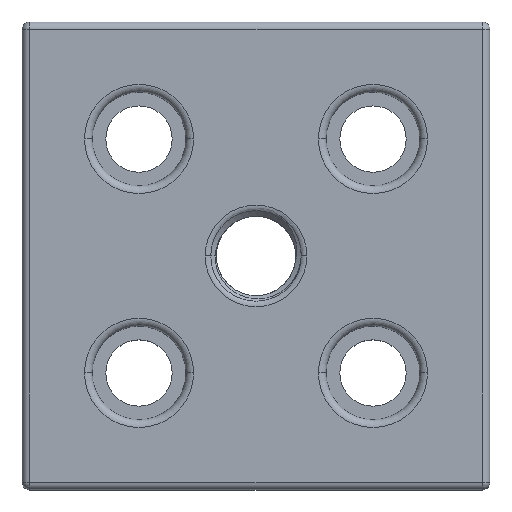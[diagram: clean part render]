
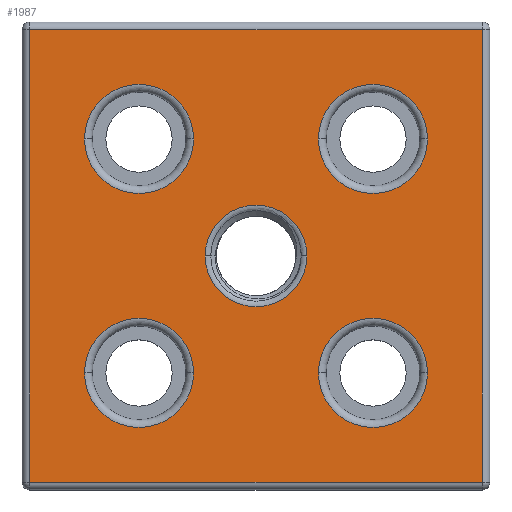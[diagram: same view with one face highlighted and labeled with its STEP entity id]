
A CAD part, top view. The second image highlights one B-rep face of the part: STEP entity #1987.
In plain terms, the highlighted planar face has unit normal (0, 0, 1).
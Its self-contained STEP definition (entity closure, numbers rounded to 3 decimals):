
#12 = DIRECTION ( 'NONE',  ( 1., 0., 0. ) ) ;
#38 = DIRECTION ( 'NONE',  ( 0., 0., -1. ) ) ;
#41 = CIRCLE ( 'NONE', #2065, 7. ) ;
#80 = DIRECTION ( 'NONE',  ( 0., 0., -1. ) ) ;
#163 = AXIS2_PLACEMENT_3D ( 'NONE', #1362, #996, #626 ) ;
#202 = DIRECTION ( 'NONE',  ( 0., 0., 1. ) ) ;
#227 = VECTOR ( 'NONE', #1037, 1000. ) ;
#243 = EDGE_CURVE ( 'NONE', #1811, #699, #41, .T. ) ;
#253 = ORIENTED_EDGE ( 'NONE', *, *, #2280, .T. ) ;
#254 = VECTOR ( 'NONE', #1158, 1000. ) ;
#351 = DIRECTION ( 'NONE',  ( 0., 0., -1. ) ) ;
#375 = DIRECTION ( 'NONE',  ( 0., 0., -1. ) ) ;
#391 = CIRCLE ( 'NONE', #2738, 7. ) ;
#400 = VERTEX_POINT ( 'NONE', #2821 ) ;
#405 = CARTESIAN_POINT ( 'NONE',  ( -15., -15., 6. ) ) ;
#447 = CARTESIAN_POINT ( 'NONE',  ( -15., 15., 6. ) ) ;
#450 = AXIS2_PLACEMENT_3D ( 'NONE', #1682, #1310, #941 ) ;
#529 = CARTESIAN_POINT ( 'NONE',  ( -22., -15., 6. ) ) ;
#565 = CARTESIAN_POINT ( 'NONE',  ( 0., 0., 6. ) ) ;
#569 = EDGE_CURVE ( 'NONE', #3458, #3168, #3077, .T. ) ;
#583 = ORIENTED_EDGE ( 'NONE', *, *, #968, .T. ) ;
#611 = DIRECTION ( 'NONE',  ( 1., 0., 0. ) ) ;
#625 = EDGE_CURVE ( 'NONE', #3211, #802, #1896, .T. ) ;
#626 = DIRECTION ( 'NONE',  ( 1., 0., 0. ) ) ;
#662 = DIRECTION ( 'NONE',  ( 0., 1., 0. ) ) ;
#670 = DIRECTION ( 'NONE',  ( 1., 0., 0. ) ) ;
#699 = VERTEX_POINT ( 'NONE', #529 ) ;
#715 = CARTESIAN_POINT ( 'NONE',  ( 15., 15., 6. ) ) ;
#740 = CARTESIAN_POINT ( 'NONE',  ( 15., -15., 6. ) ) ;
#760 = VERTEX_POINT ( 'NONE', #2742 ) ;
#788 = ORIENTED_EDGE ( 'NONE', *, *, #625, .T. ) ;
#802 = VERTEX_POINT ( 'NONE', #1601 ) ;
#840 = DIRECTION ( 'NONE',  ( -1., 0., 0. ) ) ;
#938 = PLANE ( 'NONE',  #1560 ) ;
#940 = CIRCLE ( 'NONE', #3275, 7. ) ;
#941 = DIRECTION ( 'NONE',  ( 1., 0., 0. ) ) ;
#942 = EDGE_CURVE ( 'NONE', #2573, #2532, #1401, .T. ) ;
#968 = EDGE_CURVE ( 'NONE', #3168, #3458, #1241, .T. ) ;
#984 = DIRECTION ( 'NONE',  ( 0., 0., -1. ) ) ;
#990 = EDGE_CURVE ( 'NONE', #3108, #2111, #2530, .T. ) ;
#995 = FACE_BOUND ( 'NONE', #2614, .T. ) ;
#996 = DIRECTION ( 'NONE',  ( 0., 0., -1. ) ) ;
#1003 = ORIENTED_EDGE ( 'NONE', *, *, #1704, .T. ) ;
#1030 = CARTESIAN_POINT ( 'NONE',  ( 29., 30., 6. ) ) ;
#1035 = DIRECTION ( 'NONE',  ( 0., 0., -1. ) ) ;
#1037 = DIRECTION ( 'NONE',  ( 1., 0., 0. ) ) ;
#1077 = AXIS2_PLACEMENT_3D ( 'NONE', #405, #38, #3172 ) ;
#1091 = AXIS2_PLACEMENT_3D ( 'NONE', #2663, #2321, #1960 ) ;
#1149 = ORIENTED_EDGE ( 'NONE', *, *, #569, .T. ) ;
#1158 = DIRECTION ( 'NONE',  ( 0., -1., 0. ) ) ;
#1168 = CIRCLE ( 'NONE', #163, 7. ) ;
#1213 = CARTESIAN_POINT ( 'NONE',  ( -30., 29., 6. ) ) ;
#1241 = CIRCLE ( 'NONE', #450, 7. ) ;
#1310 = DIRECTION ( 'NONE',  ( 0., 0., -1. ) ) ;
#1336 = VERTEX_POINT ( 'NONE', #2915 ) ;
#1347 = ORIENTED_EDGE ( 'NONE', *, *, #1663, .T. ) ;
#1350 = CARTESIAN_POINT ( 'NONE',  ( 0., 0., 6. ) ) ;
#1362 = CARTESIAN_POINT ( 'NONE',  ( 15., 15., 6. ) ) ;
#1373 = EDGE_CURVE ( 'NONE', #699, #1811, #1796, .T. ) ;
#1382 = AXIS2_PLACEMENT_3D ( 'NONE', #740, #375, #12 ) ;
#1401 = LINE ( 'NONE', #1030, #2202 ) ;
#1409 = CARTESIAN_POINT ( 'NONE',  ( 30., -29., 6. ) ) ;
#1439 = EDGE_LOOP ( 'NONE', ( #1149, #583 ) ) ;
#1443 = EDGE_CURVE ( 'NONE', #2111, #3108, #3071, .T. ) ;
#1466 = FACE_BOUND ( 'NONE', #1609, .T. ) ;
#1494 = CIRCLE ( 'NONE', #1382, 7. ) ;
#1531 = CARTESIAN_POINT ( 'NONE',  ( -29., -30., 6. ) ) ;
#1560 = AXIS2_PLACEMENT_3D ( 'NONE', #565, #202, #3323 ) ;
#1572 = EDGE_LOOP ( 'NONE', ( #2948, #1347, #788, #1003 ) ) ;
#1579 = EDGE_CURVE ( 'NONE', #400, #760, #1494, .T. ) ;
#1588 = LINE ( 'NONE', #1213, #2581 ) ;
#1601 = CARTESIAN_POINT ( 'NONE',  ( -29., -29., 6. ) ) ;
#1609 = EDGE_LOOP ( 'NONE', ( #253, #3431 ) ) ;
#1645 = FACE_BOUND ( 'NONE', #3044, .T. ) ;
#1653 = ORIENTED_EDGE ( 'NONE', *, *, #1373, .T. ) ;
#1663 = EDGE_CURVE ( 'NONE', #2532, #3211, #1588, .T. ) ;
#1682 = CARTESIAN_POINT ( 'NONE',  ( -15., 15., 6. ) ) ;
#1704 = EDGE_CURVE ( 'NONE', #802, #2573, #1783, .T. ) ;
#1736 = AXIS2_PLACEMENT_3D ( 'NONE', #1350, #984, #611 ) ;
#1783 = LINE ( 'NONE', #1409, #227 ) ;
#1796 = CIRCLE ( 'NONE', #1077, 7. ) ;
#1811 = VERTEX_POINT ( 'NONE', #3102 ) ;
#1838 = FACE_BOUND ( 'NONE', #1439, .T. ) ;
#1886 = EDGE_CURVE ( 'NONE', #2604, #1336, #940, .T. ) ;
#1896 = LINE ( 'NONE', #1531, #254 ) ;
#1935 = EDGE_CURVE ( 'NONE', #1336, #2604, #1168, .T. ) ;
#1960 = DIRECTION ( 'NONE',  ( 1., 0., 0. ) ) ;
#1985 = DIRECTION ( 'NONE',  ( 1., 0., 0. ) ) ;
#1987 = ADVANCED_FACE ( 'NONE', ( #995, #1466, #1645, #1838, #2019, #2115 ), #938, .T. ) ;
#2019 = FACE_OUTER_BOUND ( 'NONE', #1572, .T. ) ;
#2065 = AXIS2_PLACEMENT_3D ( 'NONE', #2681, #2340, #1985 ) ;
#2111 = VERTEX_POINT ( 'NONE', #3017 ) ;
#2115 = FACE_BOUND ( 'NONE', #2775, .T. ) ;
#2121 = CARTESIAN_POINT ( 'NONE',  ( 6.514, 0., 6. ) ) ;
#2183 = CARTESIAN_POINT ( 'NONE',  ( 29., -29., 6. ) ) ;
#2202 = VECTOR ( 'NONE', #662, 1000. ) ;
#2280 = EDGE_CURVE ( 'NONE', #760, #400, #391, .T. ) ;
#2321 = DIRECTION ( 'NONE',  ( 0., 0., -1. ) ) ;
#2340 = DIRECTION ( 'NONE',  ( 0., 0., -1. ) ) ;
#2384 = CARTESIAN_POINT ( 'NONE',  ( -29., 29., 6. ) ) ;
#2443 = CARTESIAN_POINT ( 'NONE',  ( 22., 15., 6. ) ) ;
#2481 = CARTESIAN_POINT ( 'NONE',  ( 15., -15., 6. ) ) ;
#2530 = CIRCLE ( 'NONE', #1091, 6.514 ) ;
#2532 = VERTEX_POINT ( 'NONE', #3179 ) ;
#2573 = VERTEX_POINT ( 'NONE', #2183 ) ;
#2581 = VECTOR ( 'NONE', #840, 1000. ) ;
#2604 = VERTEX_POINT ( 'NONE', #2443 ) ;
#2614 = EDGE_LOOP ( 'NONE', ( #2752, #2814 ) ) ;
#2622 = AXIS2_PLACEMENT_3D ( 'NONE', #447, #80, #3210 ) ;
#2663 = CARTESIAN_POINT ( 'NONE',  ( 0., 0., 6. ) ) ;
#2678 = CARTESIAN_POINT ( 'NONE',  ( -8., 15., 6. ) ) ;
#2681 = CARTESIAN_POINT ( 'NONE',  ( -15., -15., 6. ) ) ;
#2726 = CARTESIAN_POINT ( 'NONE',  ( -22., 15., 6. ) ) ;
#2738 = AXIS2_PLACEMENT_3D ( 'NONE', #2481, #1035, #670 ) ;
#2742 = CARTESIAN_POINT ( 'NONE',  ( 22., -15., 6. ) ) ;
#2752 = ORIENTED_EDGE ( 'NONE', *, *, #1886, .T. ) ;
#2775 = EDGE_LOOP ( 'NONE', ( #3011, #3209 ) ) ;
#2814 = ORIENTED_EDGE ( 'NONE', *, *, #1935, .T. ) ;
#2821 = CARTESIAN_POINT ( 'NONE',  ( 8., -15., 6. ) ) ;
#2915 = CARTESIAN_POINT ( 'NONE',  ( 8., 15., 6. ) ) ;
#2948 = ORIENTED_EDGE ( 'NONE', *, *, #942, .T. ) ;
#3011 = ORIENTED_EDGE ( 'NONE', *, *, #990, .T. ) ;
#3017 = CARTESIAN_POINT ( 'NONE',  ( -6.514, 0., 6. ) ) ;
#3044 = EDGE_LOOP ( 'NONE', ( #3227, #1653 ) ) ;
#3071 = CIRCLE ( 'NONE', #1736, 6.514 ) ;
#3077 = CIRCLE ( 'NONE', #2622, 7. ) ;
#3102 = CARTESIAN_POINT ( 'NONE',  ( -8., -15., 6. ) ) ;
#3108 = VERTEX_POINT ( 'NONE', #2121 ) ;
#3168 = VERTEX_POINT ( 'NONE', #2726 ) ;
#3172 = DIRECTION ( 'NONE',  ( 1., 0., 0. ) ) ;
#3179 = CARTESIAN_POINT ( 'NONE',  ( 29., 29., 6. ) ) ;
#3209 = ORIENTED_EDGE ( 'NONE', *, *, #1443, .T. ) ;
#3210 = DIRECTION ( 'NONE',  ( 1., 0., 0. ) ) ;
#3211 = VERTEX_POINT ( 'NONE', #2384 ) ;
#3227 = ORIENTED_EDGE ( 'NONE', *, *, #243, .T. ) ;
#3275 = AXIS2_PLACEMENT_3D ( 'NONE', #715, #351, #3449 ) ;
#3323 = DIRECTION ( 'NONE',  ( 1., 0., 0. ) ) ;
#3431 = ORIENTED_EDGE ( 'NONE', *, *, #1579, .T. ) ;
#3449 = DIRECTION ( 'NONE',  ( 1., 0., 0. ) ) ;
#3458 = VERTEX_POINT ( 'NONE', #2678 ) ;
